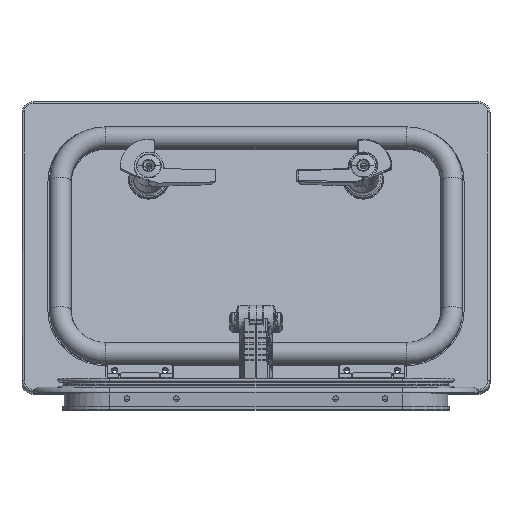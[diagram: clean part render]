
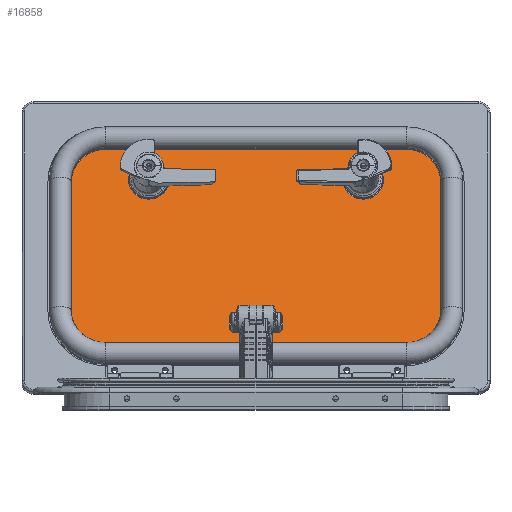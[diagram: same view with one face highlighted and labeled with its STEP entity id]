
A CAD part, top view. The second image highlights one B-rep face of the part: STEP entity #16858.
In plain terms, the highlighted planar face has unit normal (0, 0.309, 0.951) as drawn and (0, -1, 0) by its records, which use the part's own axes.
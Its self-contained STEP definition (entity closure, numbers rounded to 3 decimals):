
#15077=DIRECTION('',(1.,0.,0.));
#15078=VECTOR('',#15077,267.);
#15079=CARTESIAN_POINT('',(-133.5,0.,-91.));
#15080=LINE('',#15079,#15078);
#15081=CARTESIAN_POINT('',(-133.5,0.,-60.));
#15082=DIRECTION('',(0.,1.,0.));
#15083=DIRECTION('',(0.,0.,-1.));
#15084=AXIS2_PLACEMENT_3D('',#15081,#15082,#15083);
#15086=DIRECTION('',(0.,0.,-1.));
#15087=VECTOR('',#15086,120.);
#15088=CARTESIAN_POINT('',(-164.5,0.,60.));
#15089=LINE('',#15088,#15087);
#15090=CARTESIAN_POINT('',(-133.5,0.,60.));
#15091=DIRECTION('',(0.,1.,0.));
#15092=DIRECTION('',(-1.,0.,0.));
#15093=AXIS2_PLACEMENT_3D('',#15090,#15091,#15092);
#15095=DIRECTION('',(-1.,0.,0.));
#15096=VECTOR('',#15095,267.);
#15097=CARTESIAN_POINT('',(133.5,0.,91.));
#15098=LINE('',#15097,#15096);
#15099=CARTESIAN_POINT('',(133.5,0.,60.));
#15100=DIRECTION('',(0.,1.,0.));
#15101=DIRECTION('',(0.,0.,1.));
#15102=AXIS2_PLACEMENT_3D('',#15099,#15100,#15101);
#15104=DIRECTION('',(0.,0.,1.));
#15105=VECTOR('',#15104,120.);
#15106=CARTESIAN_POINT('',(164.5,0.,-60.));
#15107=LINE('',#15106,#15105);
#15108=CARTESIAN_POINT('',(133.5,0.,-60.));
#15109=DIRECTION('',(0.,1.,0.));
#15110=DIRECTION('',(1.,0.,0.));
#15111=AXIS2_PLACEMENT_3D('',#15108,#15109,#15110);
#15165=CARTESIAN_POINT('',(95.5,0.,62.5));
#15166=DIRECTION('',(0.,-1.,0.));
#15167=DIRECTION('',(-1.,0.,0.));
#15168=AXIS2_PLACEMENT_3D('',#15165,#15166,#15167);
#15170=CARTESIAN_POINT('',(95.5,0.,62.5));
#15171=DIRECTION('',(0.,-1.,0.));
#15172=DIRECTION('',(1.,0.,0.));
#15173=AXIS2_PLACEMENT_3D('',#15170,#15171,#15172);
#15175=CARTESIAN_POINT('',(-95.5,0.,62.5));
#15176=DIRECTION('',(0.,1.,0.));
#15177=DIRECTION('',(1.,0.,0.));
#15178=AXIS2_PLACEMENT_3D('',#15175,#15176,#15177);
#15180=CARTESIAN_POINT('',(-95.5,0.,62.5));
#15181=DIRECTION('',(0.,1.,0.));
#15182=DIRECTION('',(-1.,0.,0.));
#15183=AXIS2_PLACEMENT_3D('',#15180,#15181,#15182);
#15185=CARTESIAN_POINT('',(19.5,0.,-76.8));
#15186=DIRECTION('',(0.,-1.,0.));
#15187=DIRECTION('',(0.,0.,-1.));
#15188=AXIS2_PLACEMENT_3D('',#15185,#15186,#15187);
#15190=DIRECTION('',(0.,0.,1.));
#15191=VECTOR('',#15190,10.8);
#15192=CARTESIAN_POINT('',(23.5,0.,-76.8));
#15193=LINE('',#15192,#15191);
#15194=CARTESIAN_POINT('',(19.5,0.,-66.));
#15195=DIRECTION('',(0.,-1.,0.));
#15196=DIRECTION('',(1.,0.,0.));
#15197=AXIS2_PLACEMENT_3D('',#15194,#15195,#15196);
#15199=DIRECTION('',(-1.,0.,0.));
#15200=VECTOR('',#15199,39.);
#15201=CARTESIAN_POINT('',(19.5,0.,-62.));
#15202=LINE('',#15201,#15200);
#15203=CARTESIAN_POINT('',(-19.5,0.,-66.));
#15204=DIRECTION('',(0.,-1.,0.));
#15205=DIRECTION('',(0.,0.,1.));
#15206=AXIS2_PLACEMENT_3D('',#15203,#15204,#15205);
#15208=DIRECTION('',(0.,0.,-1.));
#15209=VECTOR('',#15208,10.8);
#15210=CARTESIAN_POINT('',(-23.5,0.,-66.));
#15211=LINE('',#15210,#15209);
#15212=CARTESIAN_POINT('',(-19.5,0.,-76.8));
#15213=DIRECTION('',(0.,-1.,0.));
#15214=DIRECTION('',(-1.,0.,0.));
#15215=AXIS2_PLACEMENT_3D('',#15212,#15213,#15214);
#15217=DIRECTION('',(1.,0.,0.));
#15218=VECTOR('',#15217,39.);
#15219=CARTESIAN_POINT('',(-19.5,0.,-80.8));
#15220=LINE('',#15219,#15218);
#16545=CARTESIAN_POINT('',(-133.5,0.,-91.));
#16546=CARTESIAN_POINT('',(133.5,0.,-91.));
#16547=VERTEX_POINT('',#16545);
#16548=VERTEX_POINT('',#16546);
#16549=CARTESIAN_POINT('',(164.5,0.,-60.));
#16550=VERTEX_POINT('',#16549);
#16551=CARTESIAN_POINT('',(164.5,0.,60.));
#16552=VERTEX_POINT('',#16551);
#16553=CARTESIAN_POINT('',(133.5,0.,91.));
#16554=VERTEX_POINT('',#16553);
#16555=CARTESIAN_POINT('',(-133.5,0.,91.));
#16556=VERTEX_POINT('',#16555);
#16557=CARTESIAN_POINT('',(-164.5,0.,60.));
#16558=VERTEX_POINT('',#16557);
#16559=CARTESIAN_POINT('',(-164.5,0.,-60.));
#16560=VERTEX_POINT('',#16559);
#16697=CARTESIAN_POINT('',(77.5,0.,62.5));
#16698=CARTESIAN_POINT('',(113.5,0.,62.5));
#16699=VERTEX_POINT('',#16697);
#16700=VERTEX_POINT('',#16698);
#16721=CARTESIAN_POINT('',(-77.5,0.,62.5));
#16722=VERTEX_POINT('',#16721);
#16723=CARTESIAN_POINT('',(-113.5,0.,62.5));
#16724=VERTEX_POINT('',#16723);
#16781=CARTESIAN_POINT('',(19.5,0.,-80.8));
#16782=CARTESIAN_POINT('',(23.5,0.,-76.8));
#16783=VERTEX_POINT('',#16781);
#16784=VERTEX_POINT('',#16782);
#16785=CARTESIAN_POINT('',(23.5,0.,-66.));
#16786=VERTEX_POINT('',#16785);
#16787=CARTESIAN_POINT('',(19.5,0.,-62.));
#16788=VERTEX_POINT('',#16787);
#16789=CARTESIAN_POINT('',(-19.5,0.,-62.));
#16790=VERTEX_POINT('',#16789);
#16791=CARTESIAN_POINT('',(-23.5,0.,-66.));
#16792=VERTEX_POINT('',#16791);
#16793=CARTESIAN_POINT('',(-23.5,0.,-76.8));
#16794=VERTEX_POINT('',#16793);
#16795=CARTESIAN_POINT('',(-19.5,0.,-80.8));
#16796=VERTEX_POINT('',#16795);
#16805=CARTESIAN_POINT('',(0.,0.,0.));
#16806=DIRECTION('',(0.,1.,0.));
#16807=DIRECTION('',(1.,0.,0.));
#16808=AXIS2_PLACEMENT_3D('',#16805,#16806,#16807);
#16809=PLANE('',#16808);
#16811=ORIENTED_EDGE('',*,*,#16810,.F.);
#16813=ORIENTED_EDGE('',*,*,#16812,.T.);
#16815=ORIENTED_EDGE('',*,*,#16814,.F.);
#16817=ORIENTED_EDGE('',*,*,#16816,.T.);
#16819=ORIENTED_EDGE('',*,*,#16818,.F.);
#16821=ORIENTED_EDGE('',*,*,#16820,.T.);
#16823=ORIENTED_EDGE('',*,*,#16822,.F.);
#16825=ORIENTED_EDGE('',*,*,#16824,.T.);
#16826=EDGE_LOOP('',(#16811,#16813,#16815,#16817,#16819,#16821,#16823,#16825));
#16827=FACE_OUTER_BOUND('',#16826,.F.);
#16829=ORIENTED_EDGE('',*,*,#16828,.T.);
#16831=ORIENTED_EDGE('',*,*,#16830,.T.);
#16832=EDGE_LOOP('',(#16829,#16831));
#16833=FACE_BOUND('',#16832,.F.);
#16835=ORIENTED_EDGE('',*,*,#16834,.F.);
#16837=ORIENTED_EDGE('',*,*,#16836,.F.);
#16838=EDGE_LOOP('',(#16835,#16837));
#16839=FACE_BOUND('',#16838,.F.);
#16841=ORIENTED_EDGE('',*,*,#16840,.T.);
#16843=ORIENTED_EDGE('',*,*,#16842,.T.);
#16845=ORIENTED_EDGE('',*,*,#16844,.T.);
#16847=ORIENTED_EDGE('',*,*,#16846,.T.);
#16849=ORIENTED_EDGE('',*,*,#16848,.T.);
#16851=ORIENTED_EDGE('',*,*,#16850,.T.);
#16853=ORIENTED_EDGE('',*,*,#16852,.T.);
#16855=ORIENTED_EDGE('',*,*,#16854,.T.);
#16856=EDGE_LOOP('',(#16841,#16843,#16845,#16847,#16849,#16851,#16853,#16855));
#16857=FACE_BOUND('',#16856,.F.);
#16858=ADVANCED_FACE('',(#16827,#16833,#16839,#16857),#16809,.F.);
#15085=CIRCLE('',#15084,31.);
#15094=CIRCLE('',#15093,31.);
#15103=CIRCLE('',#15102,31.);
#15112=CIRCLE('',#15111,31.);
#15169=CIRCLE('',#15168,18.);
#15174=CIRCLE('',#15173,18.);
#15179=CIRCLE('',#15178,18.);
#15184=CIRCLE('',#15183,18.);
#15189=CIRCLE('',#15188,4.);
#15198=CIRCLE('',#15197,4.);
#15207=CIRCLE('',#15206,4.);
#15216=CIRCLE('',#15215,4.);
#16810=EDGE_CURVE('',#16547,#16548,#15080,.T.);
#16812=EDGE_CURVE('',#16547,#16560,#15085,.T.);
#16814=EDGE_CURVE('',#16558,#16560,#15089,.T.);
#16816=EDGE_CURVE('',#16558,#16556,#15094,.T.);
#16818=EDGE_CURVE('',#16554,#16556,#15098,.T.);
#16820=EDGE_CURVE('',#16554,#16552,#15103,.T.);
#16822=EDGE_CURVE('',#16550,#16552,#15107,.T.);
#16824=EDGE_CURVE('',#16550,#16548,#15112,.T.);
#16828=EDGE_CURVE('',#16699,#16700,#15169,.T.);
#16830=EDGE_CURVE('',#16700,#16699,#15174,.T.);
#16834=EDGE_CURVE('',#16722,#16724,#15179,.T.);
#16836=EDGE_CURVE('',#16724,#16722,#15184,.T.);
#16840=EDGE_CURVE('',#16783,#16784,#15189,.T.);
#16842=EDGE_CURVE('',#16784,#16786,#15193,.T.);
#16844=EDGE_CURVE('',#16786,#16788,#15198,.T.);
#16846=EDGE_CURVE('',#16788,#16790,#15202,.T.);
#16848=EDGE_CURVE('',#16790,#16792,#15207,.T.);
#16850=EDGE_CURVE('',#16792,#16794,#15211,.T.);
#16852=EDGE_CURVE('',#16794,#16796,#15216,.T.);
#16854=EDGE_CURVE('',#16796,#16783,#15220,.T.);
